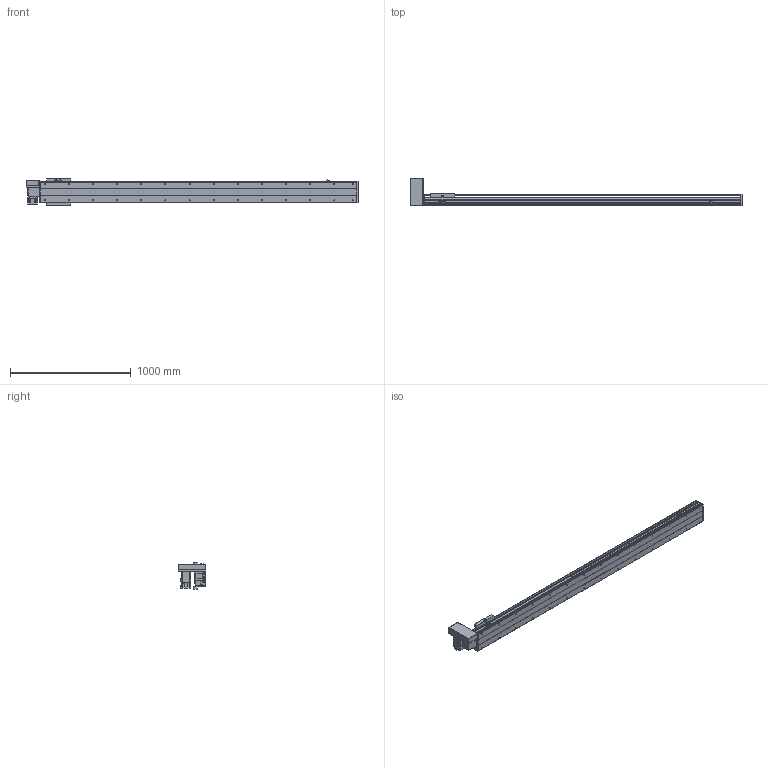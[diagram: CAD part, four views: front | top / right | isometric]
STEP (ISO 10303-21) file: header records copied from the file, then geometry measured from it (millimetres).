
FILE_DESCRIPTION(/* description */ ('STEP AP214'),/* implementation_level */ '2;1');
FILE_NAME(/* name */ 'PBS200-P40-S2250-RU-T75-C1-N(0)',/* time_stamp */ '2022-06-11T09:37:08+02:00',/* author */ ('License CC BY-ND 4.0'),/* organization */ ('CADENAS'),/* preprocessor_version */ 'ST-DEVELOPER v18.102',/* originating_system */ 'PARTsolutions',/* authorisation */ ' ');
FILE_SCHEMA (('AUTOMOTIVE_DESIGN {1 0 10303 214 3 1 1}'));
Length unit declared in the file: millimetre
Products named in the file (7): PBS200-P40-S2250-RU-T75-C1-N(0); PBS200_sensor; PBS200_plant; PBS200_sliser; T75-p1; PBS200T-RU_motors; PBS200-S2250()_body
Assembly tree (8 placements, depth 2):
  PBS200-P40-S2250-RU-T75-C1-N(0)
    PBS200_sensor  x3
    PBS200_plant
    PBS200_sliser
    T75-p1
    PBS200T-RU_motors
    PBS200-S2250()_body
Bounding box: 2750 x 231 x 221 mm (x, y, z)
Volume: 19042941.2 mm3; surface area: 3050142.4 mm2
Topology: 8 solids, 8 shells, 956 faces, 2434 edges, 1584 vertices
Faces by surface type: plane 586, cylinder 310, cone 60
Full cylindrical faces by diameter (mm): 2.459 x6, 3.242 x4, 4.5 x6, 4.917 x4, 5 x6, 6 x7, 6.6 x8, 6.647 x32, 8 x6, 10 x4, 12 x8, 38 x2, 40 x1, 70 x1
Entity records: 25301 total; most frequent: DIRECTION 4471, CARTESIAN_POINT 4300, ORIENTED_EDGE 4054, EDGE_CURVE 2027, AXIS2_PLACEMENT_3D 1579, VERTEX_POINT 1408, LINE 1313, VECTOR 1313
